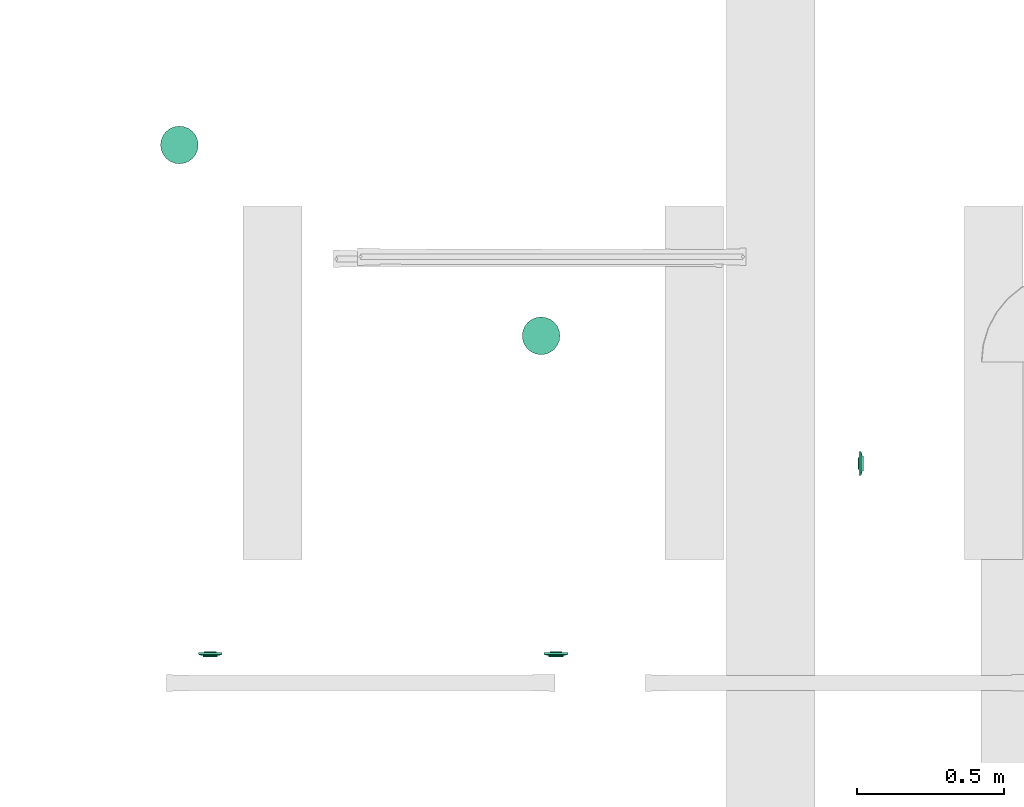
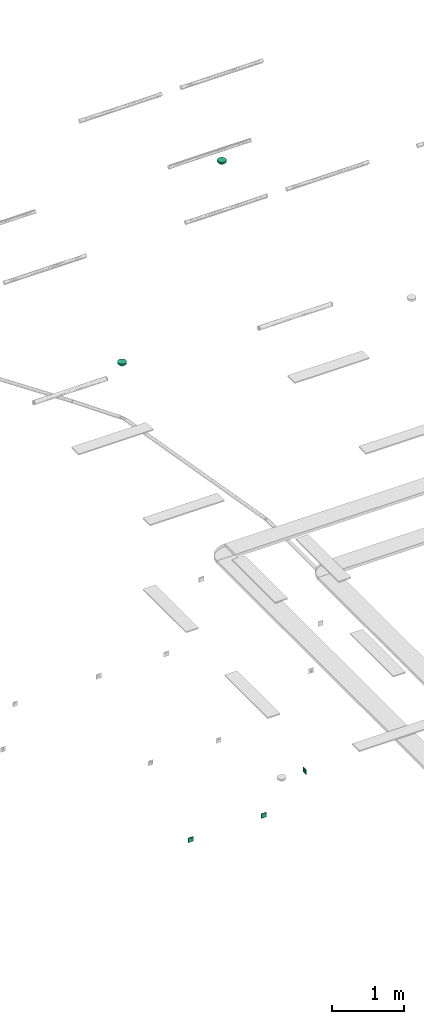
# One storey, part 42 of 153: 5 flow terminals.
"""IFC2X3 building model written with IfcOpenShell, lengths in metres."""

from ifc_helpers import new_model, entity, si_unit, converted_unit, derived_unit, direction, frame, origin, place, context, subcontext, project, spatial, faceted_brep, source, transform, mapped, type_object, type_shapes, element, save


model = new_model("IFC2X3")

# Units and contexts
model_context = context("Model", 3, precision=1e-05, world=origin(), true_north=direction((6.12303176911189e-17, 1.0)))
body_context = subcontext(model_context, "Body", "Model", "MODEL_VIEW")
ifc_project = project(units=[si_unit("LENGTHUNIT", "METRE"), si_unit("AREAUNIT", "SQUARE_METRE"), si_unit("VOLUMEUNIT", "CUBIC_METRE"), converted_unit("PLANEANGLEUNIT", "DEGREE", entity("IfcRatioMeasure", 0.0174532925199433), si_unit("PLANEANGLEUNIT", "RADIAN"), dimensions=[0, 0, 0, 0, 0, 0, 0]), si_unit("MASSUNIT", "GRAM", prefix="KILO"), derived_unit("MASSDENSITYUNIT", [(si_unit("MASSUNIT", "GRAM", prefix="KILO"), 1), (si_unit("LENGTHUNIT", "METRE"), -3)]), si_unit("TIMEUNIT", "SECOND"), si_unit("FREQUENCYUNIT", "HERTZ"), si_unit("THERMODYNAMICTEMPERATUREUNIT", "DEGREE_CELSIUS"), derived_unit("THERMALTRANSMITTANCEUNIT", [(si_unit("MASSUNIT", "GRAM", prefix="KILO"), 1), (si_unit("THERMODYNAMICTEMPERATUREUNIT", "KELVIN"), -1), (si_unit("TIMEUNIT", "SECOND"), -3)]), derived_unit("VOLUMETRICFLOWRATEUNIT", [(si_unit("LENGTHUNIT", "METRE"), 3), (si_unit("TIMEUNIT", "SECOND"), -1)]), si_unit("ELECTRICCURRENTUNIT", "AMPERE"), si_unit("ELECTRICVOLTAGEUNIT", "VOLT"), si_unit("POWERUNIT", "WATT"), si_unit("FORCEUNIT", "NEWTON"), si_unit("ILLUMINANCEUNIT", "LUX"), si_unit("LUMINOUSFLUXUNIT", "LUMEN"), si_unit("LUMINOUSINTENSITYUNIT", "CANDELA"), derived_unit("USERDEFINED", [(si_unit("MASSUNIT", "GRAM", prefix="KILO"), -1), (si_unit("LENGTHUNIT", "METRE"), -2), (si_unit("TIMEUNIT", "SECOND"), 3), (si_unit("LUMINOUSFLUXUNIT", "LUMEN"), 1)]), derived_unit("LINEARVELOCITYUNIT", [(si_unit("LENGTHUNIT", "METRE"), 1), (si_unit("TIMEUNIT", "SECOND"), -1)]), si_unit("PRESSUREUNIT", "PASCAL"), derived_unit("USERDEFINED", [(si_unit("LENGTHUNIT", "METRE"), -2), (si_unit("MASSUNIT", "GRAM", prefix="KILO"), 1), (si_unit("TIMEUNIT", "SECOND"), -2)])], contexts=[model_context])

# Site, building, storey
site_placement = place(None, origin())
site = spatial("IfcSite", under=ifc_project, at=site_placement, Name="Default", CompositionType="ELEMENT")
building_placement = place(site_placement, origin())
building = spatial("IfcBuilding", under=site, at=building_placement, CompositionType="ELEMENT")
storey_placement = place(building_placement, frame((0.0, 0.0, -4.62)))
storey = spatial("IfcBuildingStorey", under=building, at=storey_placement, Name="S02", CompositionType="ELEMENT", Elevation=-4.62)

# Flow terminals
light_fixture_type_1 = type_object("IfcLightFixtureType", Name="Détecteur 360°", PredefinedType="NOTDEFINED")
shared_shape_1 = source(origin(), body_context, "Body", "Brep", [
    faceted_brep([(0.0, -0.0397165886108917, 0.0531256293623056), (0.0, -0.034524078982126, 0.0563702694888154), (-0.0175153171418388, -0.0435914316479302, 0.0478512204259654), (-0.0194029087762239, -0.000878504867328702, 0.0644483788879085), (0.0, 0.0, 0.0669999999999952), (0.0, 0.00603476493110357, 0.0659648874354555), (-0.0174057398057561, -0.0159851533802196, 0.0630502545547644), (-0.0366619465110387, -0.0127227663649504, 0.0549213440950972), (-0.026998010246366, -0.0195753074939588, 0.0584711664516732), (-0.0202403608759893, -0.0335607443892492, 0.054639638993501), (-0.0359767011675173, -0.0348394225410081, 0.0444249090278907), (-0.0276843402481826, -0.0401006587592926, 0.0459804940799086), (-0.0133088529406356, -0.0517577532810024, 0.0400582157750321), (-0.0172617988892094, -0.0486391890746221, 0.042533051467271), (-0.0256912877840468, -0.0533485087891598, 0.0299999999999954), (-0.0462941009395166, -0.0369183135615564, 0.0299999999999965), (0.0, -0.0241390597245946, 0.0628595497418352), (-0.0186245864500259, -0.0267295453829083, 0.0589100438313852), (-0.0139070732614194, -0.0374370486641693, 0.0540817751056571), (0.0, 0.0449090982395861, 0.049880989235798), (-0.0172618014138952, 0.0486391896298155, 0.0425330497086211), (0.0, 0.0397165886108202, 0.0531256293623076), (-0.0186245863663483, 0.0267295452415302, 0.0589100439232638), (-0.0202403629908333, 0.0335607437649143, 0.054639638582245), (-0.0353547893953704, 0.0284533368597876, 0.0494330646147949), (0.0, 0.0120695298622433, 0.0649297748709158), (-0.0249385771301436, 0.0204731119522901, 0.0590841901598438), (-0.0191783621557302, 0.0150189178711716, 0.062775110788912), (-0.0465404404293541, -0.0196510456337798, 0.0438984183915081), (-0.052010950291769, -0.0250471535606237, 0.029999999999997), (-0.0453471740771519, -0.0286501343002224, 0.0397747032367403), (-0.0365036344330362, -0.0226255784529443, 0.0516441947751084), (-0.0175153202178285, 0.0435914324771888, 0.0478512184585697), (-0.0359926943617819, 0.0451334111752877, 0.0299999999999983), (-0.0276843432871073, 0.0401006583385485, 0.0459804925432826), (-0.00849704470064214, -0.0572729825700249, 0.0299999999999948), (0.0, -0.0592123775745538, 0.0299999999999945), (0.0, -0.0545512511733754, 0.0364787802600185), (0.0, -0.049890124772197, 0.0429575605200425), (-0.0169940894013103, -0.055333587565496, 0.0299999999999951), (-0.0359767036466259, 0.0348394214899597, 0.0444249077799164), (-0.025691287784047, 0.0533485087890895, 0.0299999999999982), (-0.0308419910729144, 0.0492409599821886, 0.0299999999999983), (-0.0130265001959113, 0.0514867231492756, 0.040526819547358), (-0.0169940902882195, 0.0553335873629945, 0.029999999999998), (0.0, 0.0498901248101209, 0.0429575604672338), (-0.0353547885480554, -0.0284533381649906, 0.0494330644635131), (0.0, 0.0181042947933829, 0.0638946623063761), (-0.0473669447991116, -0.00128092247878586, 0.0474310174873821), (-0.0485435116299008, -0.00908961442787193, 0.0452357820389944), (-0.0366597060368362, -0.0032867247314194, 0.0563153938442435), (-0.0226425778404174, -0.0107553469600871, 0.0624973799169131), (0.0, -0.00603476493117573, 0.0659648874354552), (0.0, 0.0293315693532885, 0.0596149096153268), (-0.0139070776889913, 0.0374370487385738, 0.0540817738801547), (-0.0449600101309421, 0.018422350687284, 0.0461366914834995), (-0.0453471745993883, 0.0286501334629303, 0.0397747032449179), (-0.0476906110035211, 0.00670602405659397, 0.0466053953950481), (-0.0577277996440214, 0.0131759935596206, 0.0299999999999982), (-0.0577277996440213, 0.00658799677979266, 0.029999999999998), (-0.0577277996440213, 0.0, 0.0299999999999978), (0.0, -0.0449090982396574, 0.0498809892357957), (-0.0308419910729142, -0.049240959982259, 0.0299999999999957), (-0.0359926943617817, -0.0451334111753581, 0.029999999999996), (0.0, 0.0345240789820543, 0.0563702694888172), (-0.0411433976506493, 0.0410258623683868, 0.0299999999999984), (-0.0462941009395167, 0.0369183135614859, 0.0299999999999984), (-0.0491525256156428, -0.03098273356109, 0.0299999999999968), (-0.0577277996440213, -0.0131759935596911, 0.0299999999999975), (0.0, -0.018104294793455, 0.0638946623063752), (-0.0377433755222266, 0.0044838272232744, 0.0554913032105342), (-0.0577277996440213, -0.00658799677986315, 0.0299999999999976), (-0.0385149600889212, 0.0124844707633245, 0.0536578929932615), (-0.0491525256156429, 0.0309827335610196, 0.0299999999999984), (-0.0548693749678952, 0.0191115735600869, 0.0299999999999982), (0.0, 0.0241390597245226, 0.0628595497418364), (-0.014625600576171, 0.0100436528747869, 0.0649170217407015), (-0.0271766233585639, 0.00920278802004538, 0.0609170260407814), (0.0, -0.0120695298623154, 0.0649297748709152), (-0.0520109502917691, 0.0250471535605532, 0.0299999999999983), (-0.0411433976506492, -0.0410258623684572, 0.0299999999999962), (-0.0548693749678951, -0.0191115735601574, 0.0299999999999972), (0.0, -0.0293315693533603, 0.0596149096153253), (0.0, 0.0545512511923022, 0.0364787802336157), (0.0, 0.0592123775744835, 0.0299999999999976), (-0.00849704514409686, 0.057272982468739, 0.0299999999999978), (-0.0127455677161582, 0.0563032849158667, 0.0299999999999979), (-0.0213426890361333, 0.054341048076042, 0.0299999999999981), (0.0175153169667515, 0.0435914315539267, 0.0478512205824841), (0.0194029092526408, 0.000878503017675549, 0.0644483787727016), (0.017405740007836, 0.0159851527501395, 0.0630502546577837), (0.0366619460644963, 0.012722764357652, 0.0549213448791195), (0.0269980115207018, 0.0195753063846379, 0.0584711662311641), (0.0202403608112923, 0.0335607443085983, 0.0546396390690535), (0.0359767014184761, 0.0348394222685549, 0.0444249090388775), (0.0276843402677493, 0.0401006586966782, 0.0459804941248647), (0.0133088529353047, 0.0517577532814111, 0.0400582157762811), (0.0172617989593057, 0.0486391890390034, 0.0425330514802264), (0.0256912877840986, 0.0533485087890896, 0.0299999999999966), (0.0462941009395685, 0.0369183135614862, 0.0299999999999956), (0.00849704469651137, 0.0572729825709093, 0.0299999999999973), (0.0169940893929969, 0.0553335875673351, 0.029999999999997), (0.0172617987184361, -0.0486391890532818, 0.0425330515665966), (0.025691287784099, -0.0533485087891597, 0.0299999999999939), (0.0308419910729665, -0.0492409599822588, 0.0299999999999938), (0.0175153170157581, -0.0435914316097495, 0.0478512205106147), (0.0186245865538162, -0.0267295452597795, 0.0589100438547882), (0.0202403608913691, -0.03356074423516, 0.0546396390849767), (0.0353547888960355, -0.0284533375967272, 0.0494330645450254), (0.0249385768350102, -0.0204731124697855, 0.0590841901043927), (0.0191783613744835, -0.0150189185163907, 0.062775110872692), (0.0465404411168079, 0.0196510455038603, 0.0438984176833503), (0.0577277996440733, 0.0131759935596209, 0.0299999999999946), (0.0548693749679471, 0.0191115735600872, 0.0299999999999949), (0.0520109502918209, 0.0250471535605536, 0.0299999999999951), (0.0365036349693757, 0.0226255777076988, 0.0516441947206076), (0.0186245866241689, 0.0267295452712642, 0.0589100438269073), (0.0359926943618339, -0.0451334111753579, 0.0299999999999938), (0.0276843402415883, -0.0401006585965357, 0.0459804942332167), (0.0139070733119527, 0.0374370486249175, 0.0540817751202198), (0.0359767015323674, -0.0348394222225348, 0.044424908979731), (0.0226425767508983, 0.0107553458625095, 0.0624973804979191), (0.0169940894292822, -0.0553335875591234, 0.0299999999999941), (0.0130264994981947, -0.0514867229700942, 0.0405268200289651), (0.0453471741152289, 0.0286501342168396, 0.039774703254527), (0.0353547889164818, 0.0284533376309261, 0.0494330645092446), (0.0473669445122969, 0.00128092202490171, 0.0474310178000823), (0.0485435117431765, 0.00908961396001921, 0.0452357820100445), (0.0366597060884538, 0.00328672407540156, 0.0563153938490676), (0.0139070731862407, -0.0374370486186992, 0.0540817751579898), (0.0449600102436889, -0.018422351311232, 0.0461366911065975), (0.0453471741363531, -0.0286501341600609, 0.039774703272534), (0.0476906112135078, -0.00670602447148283, 0.046605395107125), (0.0577277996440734, -0.0131759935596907, 0.0299999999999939), (0.0577277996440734, -0.00658799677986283, 0.0299999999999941), (0.0577277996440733, 0.0, 0.0299999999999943), (0.0308419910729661, 0.0492409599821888, 0.0299999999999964), (0.0359926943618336, 0.0451334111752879, 0.0299999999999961), (0.0411433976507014, -0.041025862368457, 0.0299999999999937), (0.0462941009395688, -0.0369183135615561, 0.0299999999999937), (0.0491525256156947, 0.0309827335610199, 0.0299999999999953), (0.037743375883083, -0.00448382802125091, 0.0554913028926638), (0.0577277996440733, 0.00658799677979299, 0.0299999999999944), (0.0385149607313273, -0.0124844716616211, 0.0536578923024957), (0.049152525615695, -0.0309827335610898, 0.0299999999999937), (0.0548693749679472, -0.0191115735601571, 0.0299999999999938), (0.0146256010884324, -0.0100436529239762, 0.0649170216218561), (0.0271766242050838, -0.00920278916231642, 0.0609170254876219), (0.0520109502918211, -0.0250471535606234, 0.0299999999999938), (0.041143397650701, 0.0410258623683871, 0.0299999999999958), (0.00849704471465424, -0.0572729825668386, 0.0299999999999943), (0.0127455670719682, -0.056303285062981, 0.0299999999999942), (0.0213426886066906, -0.0543410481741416, 0.029999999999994), (0.0, 0.0, 0.0299999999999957)], [[[0, 1, 2]], [[3, 4, 5]], [[6, 7, 8]], [[9, 10, 11]], [[12, 13, 14]], [[10, 15, 11]], [[9, 16, 17]], [[18, 9, 11]], [[19, 20, 21]], [[22, 23, 24]], [[25, 26, 27]], [[28, 29, 30]], [[8, 31, 17]], [[32, 33, 34]], [[35, 36, 37, 38, 39]], [[23, 40, 24]], [[20, 41, 42]], [[19, 43, 20]], [[44, 43, 45]], [[20, 32, 21]], [[30, 10, 46]], [[22, 26, 47]], [[48, 49, 50]], [[3, 51, 52]], [[53, 54, 23]], [[55, 24, 56]], [[57, 58, 59, 60]], [[13, 61, 0]], [[13, 0, 2]], [[2, 62, 13]], [[18, 2, 1]], [[2, 11, 63]], [[32, 64, 21]], [[32, 42, 33]], [[34, 33, 65, 66]], [[20, 42, 32]], [[54, 32, 34]], [[28, 30, 31]], [[10, 67, 15]], [[49, 68, 28]], [[8, 17, 69]], [[7, 6, 51]], [[28, 31, 7]], [[57, 48, 70]], [[58, 57, 55]], [[48, 71, 49]], [[70, 48, 50]], [[3, 50, 51]], [[55, 26, 24]], [[72, 57, 70]], [[26, 55, 72]], [[56, 40, 73]], [[56, 74, 55]], [[47, 75, 22]], [[52, 4, 3]], [[7, 50, 49]], [[5, 76, 3]], [[70, 3, 77]], [[51, 78, 52]], [[26, 25, 47]], [[76, 25, 27]], [[23, 22, 75]], [[26, 22, 24]], [[53, 64, 54]], [[23, 34, 40]], [[66, 40, 34]], [[40, 66, 73]], [[56, 73, 79, 74]], [[72, 27, 26]], [[40, 56, 24]], [[23, 75, 53]], [[69, 17, 16]], [[78, 6, 69]], [[46, 10, 9]], [[46, 9, 17]], [[50, 7, 51]], [[30, 29, 67]], [[80, 63, 11, 15]], [[28, 68, 81, 29]], [[10, 30, 67]], [[30, 46, 31]], [[82, 18, 1]], [[82, 16, 9]], [[28, 7, 49]], [[12, 39, 38]], [[61, 13, 12]], [[83, 84, 85, 86, 44, 45]], [[43, 41, 20]], [[44, 87, 41, 43]], [[32, 54, 64]], [[23, 54, 34]], [[9, 18, 82]], [[2, 18, 11]], [[39, 12, 14]], [[38, 61, 12]], [[62, 2, 63]], [[62, 14, 13]], [[17, 31, 46]], [[7, 31, 8]], [[48, 60, 71]], [[71, 68, 49]], [[60, 48, 57]], [[3, 70, 50]], [[72, 70, 77]], [[72, 77, 27]], [[55, 57, 72]], [[74, 58, 55]], [[76, 27, 77]], [[3, 76, 77]], [[25, 76, 5]], [[69, 6, 8]], [[78, 51, 6]], [[45, 43, 19]], [[21, 64, 88]], [[89, 4, 52]], [[90, 91, 92]], [[93, 94, 95]], [[96, 97, 98]], [[94, 99, 95]], [[100, 84, 83, 45, 101]], [[102, 103, 104]], [[102, 105, 0]], [[106, 107, 108]], [[78, 109, 110]], [[111, 112, 113, 114]], [[92, 115, 116]], [[105, 117, 118]], [[119, 93, 95]], [[107, 120, 108]], [[89, 121, 5]], [[122, 123, 38]], [[61, 123, 102]], [[93, 75, 116]], [[124, 94, 125]], [[106, 109, 69]], [[126, 127, 128]], [[61, 102, 0]], [[82, 129, 107]], [[130, 108, 131]], [[132, 133, 134, 135]], [[97, 19, 21]], [[97, 21, 88]], [[88, 136, 97]], [[119, 88, 64]], [[88, 95, 137]], [[105, 1, 0]], [[105, 104, 117]], [[118, 117, 138, 139]], [[102, 104, 105]], [[129, 105, 118]], [[111, 124, 115]], [[94, 140, 99]], [[127, 112, 111]], [[92, 116, 47]], [[91, 90, 121]], [[111, 115, 91]], [[132, 126, 141]], [[133, 132, 130]], [[126, 142, 127]], [[141, 126, 128]], [[89, 128, 121]], [[130, 109, 108]], [[143, 132, 141]], [[109, 130, 143]], [[131, 120, 144]], [[131, 145, 130]], [[69, 16, 106]], [[5, 4, 89]], [[91, 128, 127]], [[52, 146, 89]], [[141, 89, 147]], [[121, 25, 5]], [[109, 78, 69]], [[146, 78, 110]], [[107, 106, 16]], [[109, 106, 108]], [[82, 1, 129]], [[107, 118, 120]], [[139, 120, 118]], [[120, 139, 144]], [[131, 144, 148, 145]], [[143, 110, 109]], [[120, 131, 108]], [[107, 16, 82]], [[47, 116, 75]], [[25, 90, 47]], [[125, 94, 93]], [[125, 93, 116]], [[128, 91, 121]], [[124, 114, 140]], [[149, 137, 95, 99]], [[111, 114, 124]], [[94, 124, 140]], [[124, 125, 115]], [[53, 119, 64]], [[53, 75, 93]], [[111, 91, 127]], [[96, 101, 45]], [[19, 97, 96]], [[37, 36, 150, 151, 122, 38]], [[123, 103, 102]], [[122, 152, 103, 123]], [[105, 129, 1]], [[107, 129, 118]], [[93, 119, 53]], [[88, 119, 95]], [[101, 96, 98]], [[45, 19, 96]], [[136, 88, 137]], [[136, 98, 97]], [[116, 115, 125]], [[91, 115, 92]], [[126, 135, 142]], [[142, 112, 127]], [[135, 126, 132]], [[89, 141, 128]], [[143, 141, 147]], [[143, 147, 110]], [[130, 132, 143]], [[145, 133, 130]], [[146, 110, 147]], [[89, 146, 147]], [[78, 146, 52]], [[47, 90, 92]], [[25, 121, 90]], [[38, 123, 61]], [[153, 66, 65]], [[153, 65, 33]], [[153, 33, 42]], [[153, 42, 41]], [[153, 41, 87]], [[153, 73, 66]], [[153, 79, 73]], [[153, 74, 79]], [[153, 58, 74]], [[153, 87, 44]], [[153, 44, 86]], [[153, 86, 85]], [[153, 85, 84]], [[153, 84, 100]], [[153, 59, 58]], [[153, 60, 59]], [[153, 71, 60]], [[153, 68, 71]], [[153, 81, 68]], [[153, 29, 81]], [[153, 67, 29]], [[153, 15, 67]], [[153, 80, 15]], [[153, 63, 80]], [[153, 62, 63]], [[153, 14, 62]], [[153, 39, 14]], [[153, 35, 39]], [[153, 36, 35]], [[153, 100, 101]], [[153, 101, 98]], [[153, 98, 136]], [[153, 136, 137]], [[153, 137, 149]], [[153, 149, 99]], [[153, 99, 140]], [[153, 140, 114]], [[153, 114, 113]], [[153, 113, 112]], [[153, 112, 142]], [[153, 150, 36]], [[153, 151, 150]], [[153, 122, 151]], [[153, 152, 122]], [[153, 103, 152]], [[153, 104, 103]], [[153, 117, 104]], [[153, 138, 117]], [[153, 139, 138]], [[153, 144, 139]], [[153, 148, 144]], [[153, 145, 148]], [[153, 133, 145]], [[153, 142, 135]], [[153, 135, 134]], [[153, 134, 133]]]),
    faceted_brep([(0.0165644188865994, -0.0618192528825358, 0.029999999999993), (0.0320000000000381, -0.0554256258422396, 0.0299999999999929), (0.0452548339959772, -0.0452548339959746, 0.0299999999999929), (0.0554256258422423, -0.0320000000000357, 0.029999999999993), (0.0618192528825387, -0.016564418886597, 0.0299999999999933), (0.0640000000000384, 0.0, 0.0299999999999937), (0.0618192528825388, 0.016564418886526, 0.0299999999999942), (0.0554256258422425, 0.0319999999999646, 0.0299999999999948), (0.0452548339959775, 0.0452548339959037, 0.0299999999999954), (0.0320000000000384, 0.0554256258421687, 0.0299999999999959), (0.0165644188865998, 0.061819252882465, 0.0299999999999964), (0.0, 0.0639999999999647, 0.0299999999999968), (-0.0165644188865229, 0.061819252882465, 0.0299999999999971), (-0.0319999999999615, 0.0554256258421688, 0.0299999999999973), (-0.0452548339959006, 0.0452548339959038, 0.0299999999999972), (-0.0554256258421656, 0.0319999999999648, 0.0299999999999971), (-0.0618192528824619, 0.0165644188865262, 0.0299999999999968), (-0.0639999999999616, 0.0, 0.0299999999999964), (-0.061819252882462, -0.0165644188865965, 0.0299999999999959), (-0.0554256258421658, -0.0320000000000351, 0.0299999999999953), (-0.0452548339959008, -0.0452548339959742, 0.0299999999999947), (-0.0319999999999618, -0.0554256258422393, 0.0299999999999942), (-0.0165644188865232, -0.0618192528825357, 0.0299999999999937), (0.0, -0.0640000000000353, 0.0299999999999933), (0.0165644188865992, 0.0618192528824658, 0.0), (0.0320000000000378, 0.0554256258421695, 0.0), (0.0452548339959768, 0.0452548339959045, 0.0), (0.0554256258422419, 0.0319999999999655, 0.0), (0.0618192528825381, 0.0165644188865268, 0.0), (0.0640000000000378, 0.0, 0.0), (0.061819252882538, -0.0165644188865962, 0.0), (0.0554256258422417, -0.0320000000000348, 0.0), (0.0452548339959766, -0.0452548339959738, 0.0), (0.0320000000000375, -0.0554256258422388, 0.0), (0.0165644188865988, -0.061819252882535, 0.0), (0.0, -0.0640000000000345, 0.0), (-0.0165644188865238, -0.0618192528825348, 0.0), (-0.0319999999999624, -0.0554256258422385, 0.0), (-0.0452548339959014, -0.0452548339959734, 0.0), (-0.0554256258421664, -0.0320000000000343, 0.0), (-0.0618192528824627, -0.0165644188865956, 0.0), (-0.0639999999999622, 0.0, 0.0), (-0.0618192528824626, 0.016564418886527, 0.0), (-0.0554256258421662, 0.0319999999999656, 0.0), (-0.0452548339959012, 0.0452548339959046, 0.0), (-0.0319999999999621, 0.0554256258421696, 0.0), (-0.0165644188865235, 0.0618192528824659, 0.0), (0.0, 0.0639999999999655, 0.0)], [[[0, 1, 2, 3, 4, 5, 6, 7, 8, 9, 10, 11, 12, 13, 14, 15, 16, 17, 18, 19, 20, 21, 22, 23]], [[24, 25, 26, 27, 28, 29, 30, 31, 32, 33, 34, 35, 36, 37, 38, 39, 40, 41, 42, 43, 44, 45, 46, 47]], [[40, 18, 17, 41]], [[39, 19, 18, 40]], [[21, 20, 38, 37]], [[39, 38, 20, 19]], [[22, 21, 37, 36]], [[23, 22, 36, 35]], [[34, 0, 23, 35]], [[33, 1, 0, 34]], [[3, 2, 32, 31]], [[33, 32, 2, 1]], [[4, 3, 31, 30]], [[5, 4, 30, 29]], [[28, 6, 5, 29]], [[27, 7, 6, 28]], [[9, 8, 26, 25]], [[27, 26, 8, 7]], [[10, 9, 25, 24]], [[11, 10, 24, 47]], [[46, 12, 11, 47]], [[45, 13, 12, 46]], [[42, 41, 17, 16]], [[44, 14, 13, 45]], [[43, 15, 14, 44]], [[43, 42, 16, 15]]]),
])
type_shapes(light_fixture_type_1, [shared_shape_1])
for number, where, z_axis, x_axis in (
    (1, (34.2244346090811, -188.828177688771, 3.37), (0.0, 0.0, -1.0), (-1.0, 0.0, 0.0)),
    (2, (35.4535521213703, -189.476781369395, 6.76), (0.0, 0.0, -1.0), (-1.0, 0.0, 0.0)),
):
    element("IfcFlowTerminal", number, at=place(building_placement, frame(where, z_axis=z_axis, x_axis=x_axis)), inside=storey, type_object=light_fixture_type_1, Name="INT - Détecteur Luminosite:Détecteur 360°", ObjectType="INT - Détecteur Luminosite:Détecteur 360°", context=body_context, shape_type="MappedRepresentation", body=[
        mapped(shared_shape_1, transform((0.0, 0.0, 0.0), scale=1.0)),
    ])
light_fixture_type_2 = type_object("IfcLightFixtureType", Name="SA IP44", PredefinedType="NOTDEFINED")
shared_shape_2 = source(origin(), body_context, "Body", "Brep", [
    faceted_brep([(0.0, 0.0209999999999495, -0.00460000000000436), (0.00543519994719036, 0.02028444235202, -0.00460000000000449), (0.0105000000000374, 0.0181865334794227, -0.00460000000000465), (0.0148492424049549, 0.014849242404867, -0.00460000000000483), (0.0181865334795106, 0.0104999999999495, -0.00460000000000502), (0.0202844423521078, 0.00543519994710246, -0.00460000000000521), (0.0210000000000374, 0.0, -0.00460000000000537), (0.0202844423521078, -0.00543519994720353, -0.00460000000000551), (0.0181865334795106, -0.0105000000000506, -0.0046000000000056), (0.0148492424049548, -0.0148492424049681, -0.00460000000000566), (0.0105000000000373, -0.0181865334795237, -0.00460000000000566), (0.00543519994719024, -0.0202844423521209, -0.00460000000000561), (0.0, -0.0210000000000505, -0.00460000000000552), (-0.00543519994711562, -0.0202844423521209, -0.00460000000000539), (-0.0104999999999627, -0.0181865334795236, -0.00460000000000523), (-0.0148492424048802, -0.0148492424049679, -0.00460000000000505), (-0.0181865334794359, -0.0105000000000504, -0.00460000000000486), (-0.0202844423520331, -0.00543519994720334, -0.00460000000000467), (-0.0209999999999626, 0.0, -0.00460000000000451), (-0.020284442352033, 0.00543519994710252, -0.00460000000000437), (-0.0181865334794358, 0.0104999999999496, -0.00460000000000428), (-0.0148492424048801, 0.0148492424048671, -0.00460000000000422), (-0.0104999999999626, 0.0181865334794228, -0.00460000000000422), (-0.00543519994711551, 0.02028444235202, -0.00460000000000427), (-0.020284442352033, -0.00543519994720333, 0.0), (-0.0209999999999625, 0.0, 0.0), (-0.0181865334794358, -0.0105000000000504, 0.0), (-0.0104999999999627, -0.0181865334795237, 0.0), (-0.0148492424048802, -0.0148492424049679, 0.0), (-0.00543519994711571, -0.020284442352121, 0.0), (0.0, -0.0210000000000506, 0.0), (0.00543519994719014, -0.0202844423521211, 0.0), (0.0105000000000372, -0.018186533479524, 0.0), (0.0181865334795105, -0.0105000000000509, 0.0), (0.0148492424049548, -0.0148492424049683, 0.0), (0.0202844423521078, -0.00543519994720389, 0.0), (0.0210000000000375, 0.0, 0.0), (0.0202844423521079, 0.00543519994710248, 0.0), (0.0181865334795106, 0.0104999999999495, 0.0), (0.0105000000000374, 0.0181865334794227, 0.0), (0.0148492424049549, 0.014849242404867, 0.0), (0.00543519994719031, 0.0202844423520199, 0.0), (0.0, 0.0209999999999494, 0.0), (-0.00543519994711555, 0.0202844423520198, 0.0), (-0.0104999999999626, 0.0181865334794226, 0.0), (-0.0181865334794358, 0.0104999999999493, 0.0), (-0.0148492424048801, 0.0148492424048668, 0.0), (-0.020284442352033, 0.00543519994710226, 0.0)], [[[0, 1, 2, 3, 4, 5, 6, 7, 8, 9, 10, 11, 12, 13, 14, 15, 16, 17, 18, 19, 20, 21, 22, 23]], [[17, 24, 25, 18]], [[16, 26, 24, 17]], [[27, 28, 15, 14]], [[16, 15, 28, 26]], [[29, 27, 14, 13]], [[30, 29, 13, 12]], [[11, 31, 30, 12]], [[10, 32, 31, 11]], [[33, 34, 9, 8]], [[10, 9, 34, 32]], [[35, 33, 8, 7]], [[36, 35, 7, 6]], [[5, 37, 36, 6]], [[4, 38, 37, 5]], [[39, 40, 3, 2]], [[4, 3, 40, 38]], [[41, 39, 2, 1]], [[42, 41, 1, 0]], [[23, 43, 42, 0]], [[22, 44, 43, 23]], [[45, 46, 21, 20]], [[22, 21, 46, 44]], [[47, 45, 20, 19]], [[25, 47, 19, 18]], [[25, 24, 26, 28, 27, 29, 30, 31, 32, 34, 33, 35, 36, 37, 38, 40, 39, 41, 42, 43, 44, 46, 45, 47]]]),
    faceted_brep([(0.0270000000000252, 0.026999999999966, 0.0103999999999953), (-0.0269999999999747, 0.026999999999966, 0.0103999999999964), (-0.0269999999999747, -0.0270000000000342, 0.0103999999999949), (0.0270000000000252, -0.0270000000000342, 0.0103999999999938), (-0.0254999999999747, 0.0258096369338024, 0.0103999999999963), (0.0255000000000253, 0.0258096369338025, 0.0103999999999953), (0.0255000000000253, -0.0255000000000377, 0.0103999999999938), (-0.0254999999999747, -0.0255000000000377, 0.0103999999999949), (0.0270000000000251, 0.0269999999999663, 0.00199999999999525), (0.0270000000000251, -0.0270000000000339, 0.00199999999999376), (-0.0269999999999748, -0.0270000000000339, 0.00199999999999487), (-0.0269999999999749, 0.0269999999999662, 0.00199999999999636), (0.0255000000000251, 0.0258096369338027, 0.00199999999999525), (-0.0254999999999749, 0.0258096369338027, 0.0019999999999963), (-0.0254999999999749, -0.0255000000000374, 0.00199999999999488), (0.0255000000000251, -0.0255000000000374, 0.00199999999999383)], [[[0, 1, 2, 3], [4, 5, 6, 7]], [[8, 9, 10, 11], [12, 13, 14, 15]], [[1, 0, 8, 11]], [[2, 1, 11, 10]], [[3, 2, 10, 9]], [[0, 3, 9, 8]], [[12, 5, 4, 13]], [[13, 4, 7, 14]], [[14, 7, 6, 15]], [[5, 12, 15, 6]]]),
    faceted_brep([(0.0250000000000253, 0.0253096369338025, 0.00659999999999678), (0.0250000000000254, 0.0253096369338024, 0.0117095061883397), (0.0250000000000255, -0.0245000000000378, 0.0142232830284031), (0.0250000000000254, -0.0250000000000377, 0.0117095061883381), (0.0250000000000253, -0.0250000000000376, 0.00659999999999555), (-0.0249999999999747, 0.0253096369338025, 0.00659999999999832), (-0.0249999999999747, -0.0250000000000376, 0.00659999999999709), (-0.0249999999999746, -0.0250000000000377, 0.0117095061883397), (-0.0249999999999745, -0.0245000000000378, 0.0142232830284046), (-0.0249999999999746, 0.0253096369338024, 0.0117095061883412)], [[[0, 1, 2, 3, 4]], [[5, 6, 7, 8, 9]], [[1, 0, 5, 9]], [[2, 1, 9, 8]], [[3, 2, 8, 7]], [[4, 3, 7, 6]], [[0, 4, 6, 5]]]),
    faceted_brep([(0.027000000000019, 0.0269999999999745, 0.00659999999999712), (-0.0269999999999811, 0.0269999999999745, 0.00659999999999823), (-0.026999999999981, -0.0270000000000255, 0.00659999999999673), (0.027000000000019, -0.0270000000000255, 0.00659999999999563), (0.040350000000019, 0.0403499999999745, 0.00659999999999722), (0.040350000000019, -0.0403500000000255, 0.00659999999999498), (-0.0403499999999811, -0.0403500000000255, 0.00659999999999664), (-0.0403499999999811, 0.0403499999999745, 0.00659999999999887), (-0.026999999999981, 0.0269999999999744, 0.0103999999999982), (0.027000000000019, 0.0269999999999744, 0.0103999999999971), (-0.026999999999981, -0.0270000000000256, 0.0103999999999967), (0.027000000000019, -0.0270000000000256, 0.0103999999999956)], [[[0, 1, 2, 3], [4, 5, 6, 7]], [[4, 7, 8, 9]], [[7, 6, 10, 8]], [[6, 5, 11, 10]], [[5, 4, 9, 11]], [[0, 9, 8, 1]], [[1, 8, 10, 2]], [[2, 10, 11, 3]], [[9, 0, 3, 11]]], outer=[[False, True], [True], [True], [True], [True], [True], [True], [True], [True]]),
    faceted_brep([(0.040350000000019, 0.0403499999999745, 0.00659999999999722), (-0.0403499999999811, 0.0403499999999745, 0.00659999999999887), (-0.0403499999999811, -0.0403500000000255, 0.00659999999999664), (0.040350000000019, -0.0403500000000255, 0.00659999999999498), (-0.0269999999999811, 0.0269999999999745, 0.00659999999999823), (0.0270000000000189, 0.0269999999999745, 0.00659999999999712), (0.0270000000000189, -0.0270000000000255, 0.00659999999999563), (-0.0269999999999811, -0.0270000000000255, 0.00659999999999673), (0.0403500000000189, 0.0403499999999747, 0.0), (0.0403500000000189, -0.0403500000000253, 0.0), (-0.0403499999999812, -0.0403500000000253, 0.0), (-0.0403499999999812, 0.0403499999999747, 0.0), (0.0270000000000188, 0.0269999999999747, 0.0), (-0.0269999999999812, 0.0269999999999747, 0.0), (-0.0269999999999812, -0.0270000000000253, 0.0), (0.0270000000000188, -0.0270000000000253, 0.0)], [[[0, 1, 2, 3], [4, 5, 6, 7]], [[8, 9, 10, 11], [12, 13, 14, 15]], [[1, 0, 8, 11]], [[2, 1, 11, 10]], [[3, 2, 10, 9]], [[0, 3, 9, 8]], [[12, 5, 4, 13]], [[13, 4, 7, 14]], [[14, 7, 6, 15]], [[5, 12, 15, 6]]]),
])
type_shapes(light_fixture_type_2, [shared_shape_2])
for number, where, z_axis, x_axis in (
    (3, (34.3293421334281, -190.55346408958, -3.73999999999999), (0.0, -1.0, 0.0), (1.0, 0.0, 0.0)),
    (4, (35.5040363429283, -190.55346408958, -3.73999999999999), (0.0, -1.0, 0.0), (1.0, 0.0, 0.0)),
    (5, (36.5347436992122, -189.910682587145, -3.73999999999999), (1.0, 0.0, 0.0), (0.0, 1.0, 0.0)),
):
    element("IfcFlowTerminal", number, at=place(building_placement, frame(where, z_axis=z_axis, x_axis=x_axis)), inside=storey, type_object=light_fixture_type_2, Name="INT_Inter SA:SA IP44", ObjectType="INT_Inter SA:SA IP44", context=body_context, shape_type="MappedRepresentation", body=[
        mapped(shared_shape_2, transform((0.0, 0.0, 0.0), scale=1.0)),
    ])

save(model, "model.ifc")
